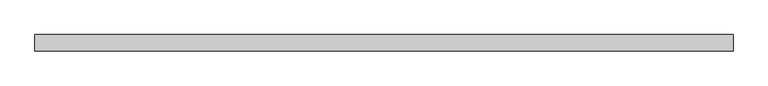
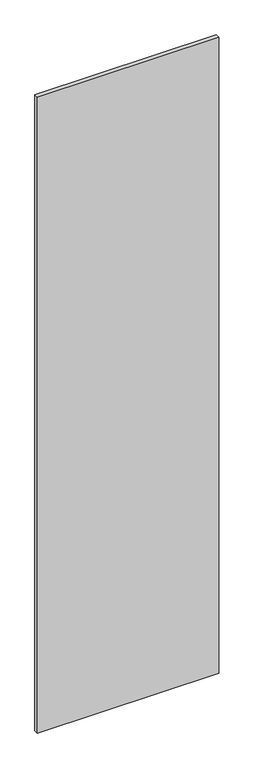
"""IFC4 building model written with IfcOpenShell, lengths in millimetres: plate geometry, 系统嵌板 : 玻璃."""

from ifc_helpers import new_model, si_unit, origin, origin_with_axes, place, context, project, spatial, polyline, outline, extrude, source, transform, mapped, element, save


def plate_6fba4545(model_context):
    return source(origin(), model_context, "Body", "SweptSolid", [
        extrude(outline(polyline([(539.4292937, -12.5), (-539.4292937, -12.5), (-539.4292937, 12.5), (539.4292937, 12.5), (539.4292937, -12.5)])), origin_with_axes(), (0.0, 0.0, 1.0), 4000.0),
    ])


if __name__ == "__main__":
    model = new_model("IFC4")
    model_context = context("Model", 3, world=origin())
    ifc_project = project(units=[si_unit("LENGTHUNIT", "METRE", prefix="MILLI")], contexts=[model_context])
    site = spatial("IfcSite", under=ifc_project)
    building = spatial("IfcBuilding", under=site)
    placement = place(None, origin())
    plate_shape = plate_6fba4545(model_context)
    element("IfcPlate", 1, ObjectType="系统嵌板 : 玻璃", at=placement, inside=building, context=model_context, shape_type="MappedRepresentation", body=[
        mapped(plate_shape, transform((0.0, 0.0, 0.0), x_axis=(1.0, 0.0, 0.0), y_axis=(0.0, 1.0, 0.0), z_axis=(0.0, 0.0, 1.0))),
    ])
    save(model, "model.ifc")
